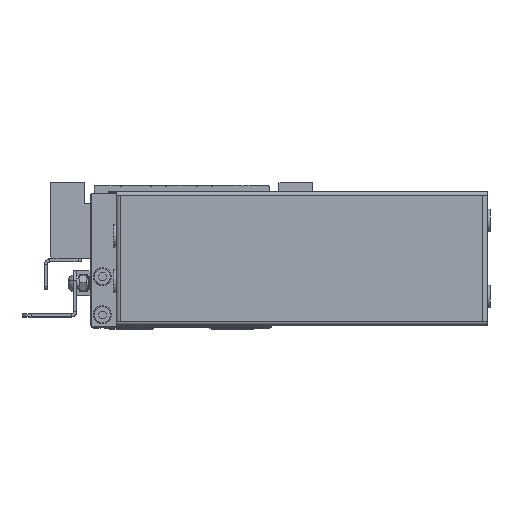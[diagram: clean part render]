
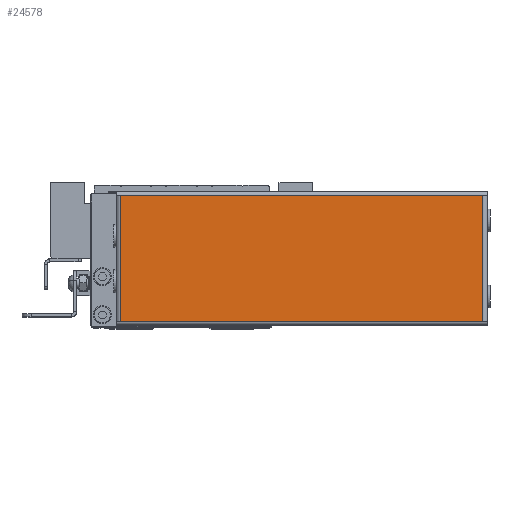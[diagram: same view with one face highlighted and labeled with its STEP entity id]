
A CAD part, top view. The second image highlights one B-rep face of the part: STEP entity #24578.
In plain terms, the highlighted planar face has unit normal (0, 0, 1) as drawn and (0, 0, -1) by its records, which use the part's own axes.
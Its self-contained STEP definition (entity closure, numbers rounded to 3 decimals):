
#2551 = PLANE ( 'NONE',  #51829 ) ;
#5518 = VERTEX_POINT ( 'NONE', #37489 ) ;
#7492 = CARTESIAN_POINT ( 'NONE',  ( 120.5, 42.7, -1. ) ) ;
#8972 = EDGE_LOOP ( 'NONE', ( #63344, #31189, #44796, #47853 ) ) ;
#12753 = DIRECTION ( 'NONE',  ( 0., 1., 0. ) ) ;
#17960 = LINE ( 'NONE', #7492, #57089 ) ;
#21562 = FACE_OUTER_BOUND ( 'NONE', #8972, .T. ) ;
#23076 = DIRECTION ( 'NONE',  ( 0., 0., -1. ) ) ;
#24111 = DIRECTION ( 'NONE',  ( -1., 0., 0. ) ) ;
#24578 = ADVANCED_FACE ( 'NONE', ( #21562 ), #2551, .T. ) ;
#25256 = VERTEX_POINT ( 'NONE', #25896 ) ;
#25896 = CARTESIAN_POINT ( 'NONE',  ( 120.5, 1.3, -1. ) ) ;
#26875 = CARTESIAN_POINT ( 'NONE',  ( 120.5, 42.7, -1. ) ) ;
#27008 = VERTEX_POINT ( 'NONE', #53115 ) ;
#28848 = VECTOR ( 'NONE', #43203, 1000. ) ;
#29366 = EDGE_CURVE ( 'NONE', #5518, #27008, #41250, .T. ) ;
#31189 = ORIENTED_EDGE ( 'NONE', *, *, #63336, .T. ) ;
#33026 = CARTESIAN_POINT ( 'NONE',  ( 122., 1.3, -1. ) ) ;
#33338 = CARTESIAN_POINT ( 'NONE',  ( 0., 42.7, -1. ) ) ;
#37489 = CARTESIAN_POINT ( 'NONE',  ( 1.5, 1.3, -1. ) ) ;
#38293 = CARTESIAN_POINT ( 'NONE',  ( 0., 0., -1. ) ) ;
#38434 = CARTESIAN_POINT ( 'NONE',  ( 1.5, 1.3, -1. ) ) ;
#41250 = LINE ( 'NONE', #38434, #63582 ) ;
#41380 = LINE ( 'NONE', #33026, #44614 ) ;
#43203 = DIRECTION ( 'NONE',  ( 1., 0., 0. ) ) ;
#44079 = LINE ( 'NONE', #33338, #28848 ) ;
#44614 = VECTOR ( 'NONE', #24111, 1000. ) ;
#44796 = ORIENTED_EDGE ( 'NONE', *, *, #45636, .T. ) ;
#45636 = EDGE_CURVE ( 'NONE', #25256, #5518, #41380, .T. ) ;
#46622 = VERTEX_POINT ( 'NONE', #26875 ) ;
#47853 = ORIENTED_EDGE ( 'NONE', *, *, #29366, .T. ) ;
#51829 = AXIS2_PLACEMENT_3D ( 'NONE', #38293, #23076, #53709 ) ;
#53115 = CARTESIAN_POINT ( 'NONE',  ( 1.5, 42.7, -1. ) ) ;
#53709 = DIRECTION ( 'NONE',  ( -1., 0., 0. ) ) ;
#54815 = EDGE_CURVE ( 'NONE', #27008, #46622, #44079, .T. ) ;
#57089 = VECTOR ( 'NONE', #63272, 1000. ) ;
#63272 = DIRECTION ( 'NONE',  ( 0., -1., 0. ) ) ;
#63336 = EDGE_CURVE ( 'NONE', #46622, #25256, #17960, .T. ) ;
#63344 = ORIENTED_EDGE ( 'NONE', *, *, #54815, .T. ) ;
#63582 = VECTOR ( 'NONE', #12753, 1000. ) ;
